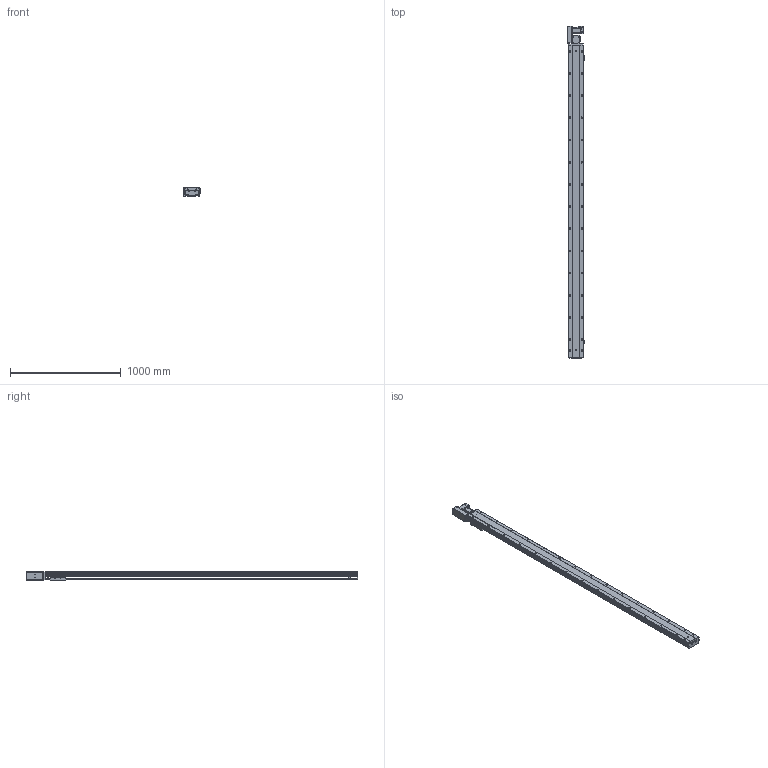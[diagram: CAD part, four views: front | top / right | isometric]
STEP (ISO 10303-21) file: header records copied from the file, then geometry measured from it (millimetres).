
FILE_DESCRIPTION (( 'STEP AP203' ), '1' );
FILE_NAME ('255.STEP', '2022-07-20T11:39:45', ( '' ), ( '' ), 'SwSTEP 2.0', 'SolidWorks 2016', '' );
FILE_SCHEMA (( 'CONFIG_CONTROL_DESIGN' ));
Length unit declared in the file: millimetre
Products named in the file (10): BTB14-L-01; BTB14-L-06; BTB14-L-M40; BTB14-L-菁釱_XD; BTB14-L-04; 255; BTB14-L-23; BTB14-L-02; BTB14-L-24; BTB14-L-HZ
Assembly tree (12 placements, depth 2):
  255
    BTB14-L-菁釱_XD
    BTB14-L-01
    BTB14-L-02
    BTB14-L-04  x3
    BTB14-L-06
    BTB14-L-23  x2
    BTB14-L-24
    BTB14-L-HZ
    BTB14-L-M40
Bounding box: 160.7 x 2993.5 x 78 mm (x, y, z)
Volume: 12523272.8 mm3; surface area: 2576943.5 mm2
Topology: 22 solids, 22 shells, 1714 faces, 4533 edges, 2872 vertices
Faces by surface type: plane 937, cylinder 528, cone 160, bspline 77, torus 12
Entity records: 45758 total; most frequent: CARTESIAN_POINT 11063, DIRECTION 6964, ORIENTED_EDGE 6916, EDGE_CURVE 3458, AXIS2_PLACEMENT_3D 2331, VECTOR 2302, LINE 2302, VERTEX_POINT 2250
